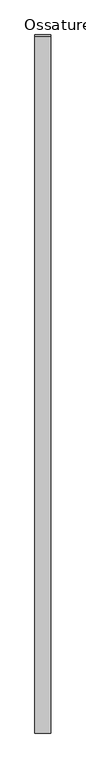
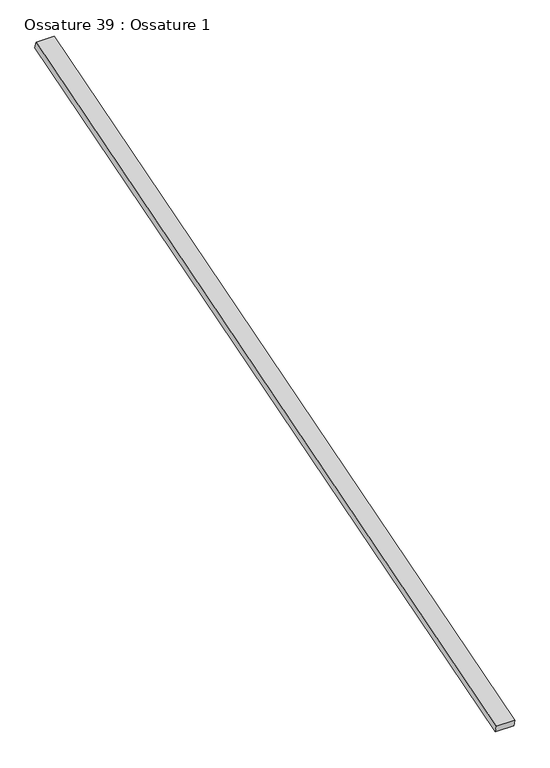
"""IFC4 building model written with IfcOpenShell, lengths in millimetres: beam geometry, Ossature 39 : Ossature 1."""

from ifc_helpers import new_model, si_unit, frame, origin, place, context, project, spatial, polyline, outline, extrude, source, transform, mapped, element, save


def ossature_39_ossature_1_3c7c2721(model_context):
    return source(origin(), model_context, "Body", "SweptSolid", [
        extrude(outline(polyline([(0.0, 0.0), (0.0, -4543.0299679), (-100.0, -4543.0299679), (-100.0, 0.0), (0.0, 0.0)])), frame((9589.8466393, -833.3913565, 8153.6336115), z_axis=(0.0, -0.28734788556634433, 0.9578262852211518), x_axis=(-1.0, 0.0, 0.0)), (0.0, 0.0, 1.0), 40.0),
    ])


if __name__ == "__main__":
    model = new_model("IFC4")
    model_context = context("Model", 3, world=origin())
    ifc_project = project(units=[si_unit("LENGTHUNIT", "METRE", prefix="MILLI")], contexts=[model_context])
    site = spatial("IfcSite", under=ifc_project)
    building = spatial("IfcBuilding", under=site)
    placement = place(None, origin())
    ossature_39_ossature_1_shape = ossature_39_ossature_1_3c7c2721(model_context)
    element("IfcBeam", 1, ObjectType="Ossature 39 : Ossature 1", at=placement, inside=building, context=model_context, shape_type="MappedRepresentation", body=[
        mapped(ossature_39_ossature_1_shape, transform((0.0, 0.0, 0.0), x_axis=(1.0, 0.0, 0.0), y_axis=(0.0, 1.0, 0.0), z_axis=(0.0, 0.0, 1.0))),
    ])
    save(model, "model.ifc")
